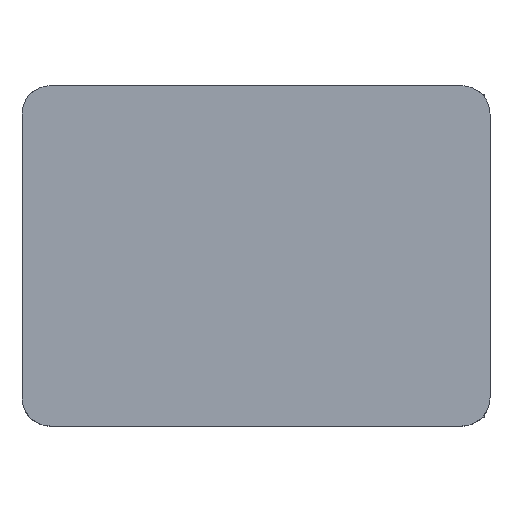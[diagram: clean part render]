
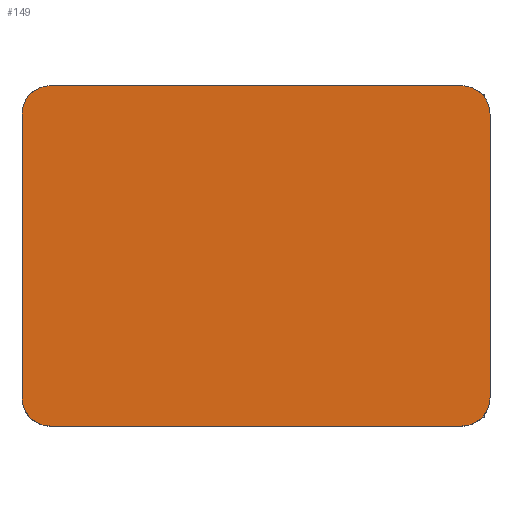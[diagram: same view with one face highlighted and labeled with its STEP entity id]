
A CAD part, top view. The second image highlights one B-rep face of the part: STEP entity #149.
In plain terms, the highlighted planar face has unit normal (0, 0, 1).
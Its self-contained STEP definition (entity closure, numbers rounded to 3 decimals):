
#75 = EDGE_CURVE('',#76,#78,#80,.T.);
#76 = VERTEX_POINT('',#77);
#77 = CARTESIAN_POINT('',(0.,10.,30.));
#78 = VERTEX_POINT('',#79);
#79 = CARTESIAN_POINT('',(10.,0.,30.));
#80 = CIRCLE('',#81,10.);
#81 = AXIS2_PLACEMENT_3D('',#82,#83,#84);
#82 = CARTESIAN_POINT('',(10.,10.,30.));
#83 = DIRECTION('',(0.,0.,1.));
#84 = DIRECTION('',(1.,0.,-0.));
#149 = ADVANCED_FACE('',(#150),#210,.T.);
#150 = FACE_BOUND('',#151,.T.);
#151 = EDGE_LOOP('',(#152,#153,#161,#170,#178,#187,#195,#204));
#152 = ORIENTED_EDGE('',*,*,#75,.T.);
#153 = ORIENTED_EDGE('',*,*,#154,.T.);
#154 = EDGE_CURVE('',#78,#155,#157,.T.);
#155 = VERTEX_POINT('',#156);
#156 = CARTESIAN_POINT('',(155.,0.,30.));
#157 = LINE('',#158,#159);
#158 = CARTESIAN_POINT('',(10.,0.,30.));
#159 = VECTOR('',#160,1.);
#160 = DIRECTION('',(1.,0.,-0.));
#161 = ORIENTED_EDGE('',*,*,#162,.T.);
#162 = EDGE_CURVE('',#155,#163,#165,.T.);
#163 = VERTEX_POINT('',#164);
#164 = CARTESIAN_POINT('',(165.,10.,30.));
#165 = CIRCLE('',#166,10.);
#166 = AXIS2_PLACEMENT_3D('',#167,#168,#169);
#167 = CARTESIAN_POINT('',(155.,10.,30.));
#168 = DIRECTION('',(0.,0.,1.));
#169 = DIRECTION('',(1.,0.,-0.));
#170 = ORIENTED_EDGE('',*,*,#171,.T.);
#171 = EDGE_CURVE('',#163,#172,#174,.T.);
#172 = VERTEX_POINT('',#173);
#173 = CARTESIAN_POINT('',(165.,110.,30.));
#174 = LINE('',#175,#176);
#175 = CARTESIAN_POINT('',(165.,10.,30.));
#176 = VECTOR('',#177,1.);
#177 = DIRECTION('',(-0.,1.,0.));
#178 = ORIENTED_EDGE('',*,*,#179,.T.);
#179 = EDGE_CURVE('',#172,#180,#182,.T.);
#180 = VERTEX_POINT('',#181);
#181 = CARTESIAN_POINT('',(155.,120.,30.));
#182 = CIRCLE('',#183,10.);
#183 = AXIS2_PLACEMENT_3D('',#184,#185,#186);
#184 = CARTESIAN_POINT('',(155.,110.,30.));
#185 = DIRECTION('',(0.,0.,1.));
#186 = DIRECTION('',(1.,0.,-0.));
#187 = ORIENTED_EDGE('',*,*,#188,.F.);
#188 = EDGE_CURVE('',#189,#180,#191,.T.);
#189 = VERTEX_POINT('',#190);
#190 = CARTESIAN_POINT('',(10.,120.,30.));
#191 = LINE('',#192,#193);
#192 = CARTESIAN_POINT('',(10.,120.,30.));
#193 = VECTOR('',#194,1.);
#194 = DIRECTION('',(1.,0.,-0.));
#195 = ORIENTED_EDGE('',*,*,#196,.T.);
#196 = EDGE_CURVE('',#189,#197,#199,.T.);
#197 = VERTEX_POINT('',#198);
#198 = CARTESIAN_POINT('',(0.,110.,30.));
#199 = CIRCLE('',#200,10.);
#200 = AXIS2_PLACEMENT_3D('',#201,#202,#203);
#201 = CARTESIAN_POINT('',(10.,110.,30.));
#202 = DIRECTION('',(0.,0.,1.));
#203 = DIRECTION('',(1.,0.,-0.));
#204 = ORIENTED_EDGE('',*,*,#205,.F.);
#205 = EDGE_CURVE('',#76,#197,#206,.T.);
#206 = LINE('',#207,#208);
#207 = CARTESIAN_POINT('',(0.,10.,30.));
#208 = VECTOR('',#209,1.);
#209 = DIRECTION('',(-0.,1.,0.));
#210 = PLANE('',#211);
#211 = AXIS2_PLACEMENT_3D('',#212,#213,#214);
#212 = CARTESIAN_POINT('',(82.5,60.,30.));
#213 = DIRECTION('',(0.,0.,1.));
#214 = DIRECTION('',(1.,0.,-0.));
